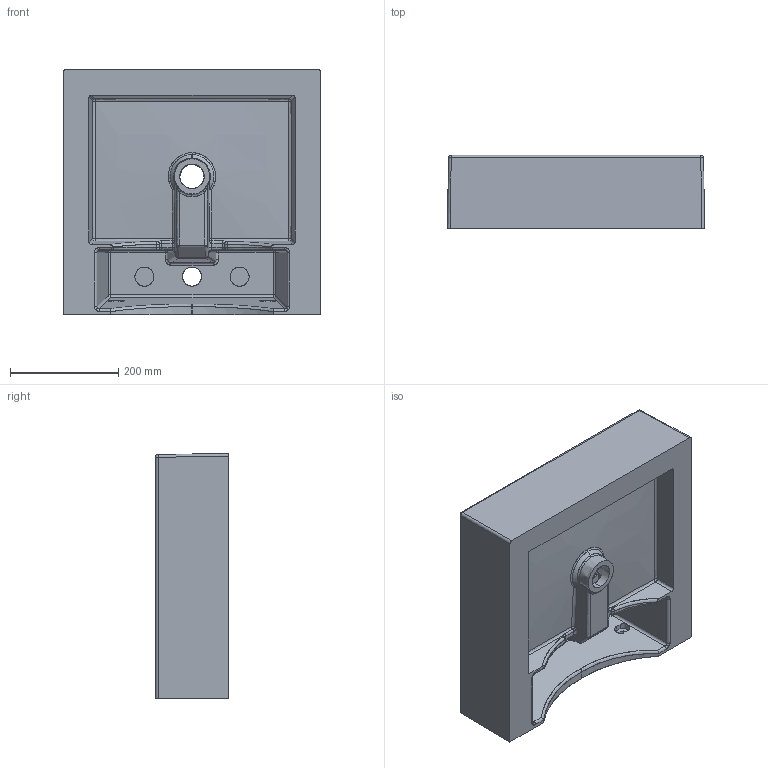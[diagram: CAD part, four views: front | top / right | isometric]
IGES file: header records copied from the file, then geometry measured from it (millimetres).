
Start section: SolidWorks IGES file using analytic representation for surfaces
Global section: file name: K:\lavabi tecla 3D IGS\o. DAX II (1)\DAX2  45X47 DA02011.IGS; native system: SolidWorks 2013; preprocessor: SolidWorks 2013; author: UTENTE 1; date: 140521.172136; units: millimetre
Bounding box: 474.71 x 135 x 452.36 mm (x, y, z)
Surface area: 1096437.5 mm2 (no closed solid volume)
Topology: 0 solids, 0 shells, 254 faces, 3021 edges, 3009 vertices
Faces by surface type: bspline 136, revolution 118
